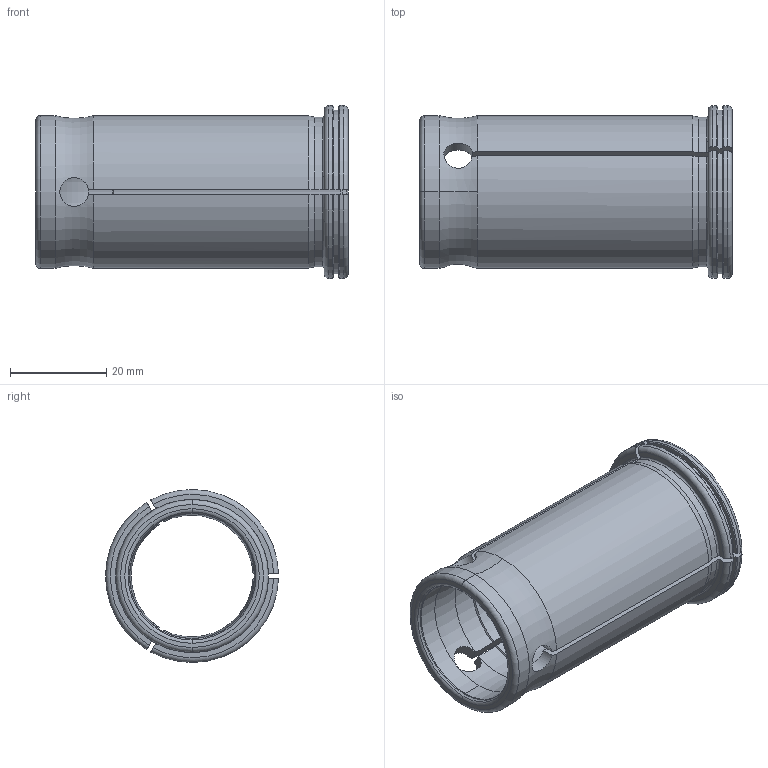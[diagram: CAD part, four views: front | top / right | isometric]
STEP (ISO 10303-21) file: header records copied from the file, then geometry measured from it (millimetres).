
FILE_DESCRIPTION((''),'2;1');
FILE_NAME('K31_75-25_4','2020-09-02T08:23:39',('ssktool'),(''),'CREO PARAMETRIC BY PTC INC, 2018100','CREO PARAMETRIC BY PTC INC, 2018100','');
FILE_SCHEMA(('CONFIG_CONTROL_DESIGN'));
Length unit declared in the file: millimetre
Products named in the file (1): K31_75-25_4
Bounding box: 65 x 35.99 x 36 mm (x, y, z)
Volume: 18010 mm3; surface area: 13431.7 mm2
Topology: 1 solids, 1 shells, 90 faces, 254 edges, 165 vertices
Faces by surface type: cylinder 28, torus 26, plane 19, cone 17
Entity records: 3334 total; most frequent: CARTESIAN_POINT 1034, ORIENTED_EDGE 508, DIRECTION 448, EDGE_CURVE 254, AXIS2_PLACEMENT_3D 185, VERTEX_POINT 165, CIRCLE 95, EDGE_LOOP 91
